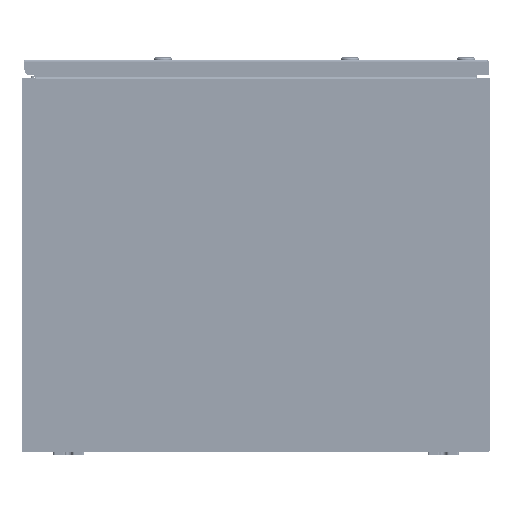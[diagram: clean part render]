
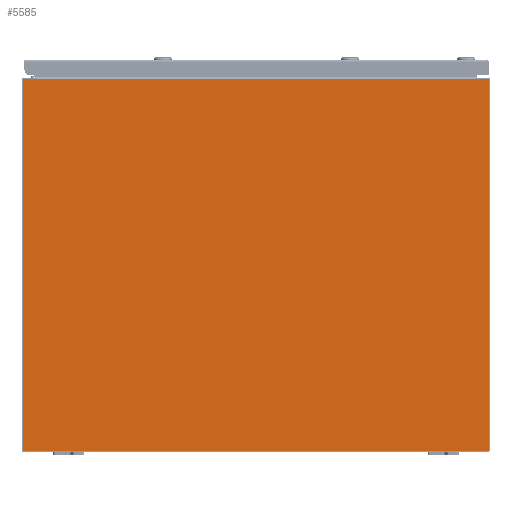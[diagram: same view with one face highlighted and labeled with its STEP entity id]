
A CAD part, front view. The second image highlights one B-rep face of the part: STEP entity #5585.
In plain terms, the highlighted planar face has unit normal (0, -1, 0).
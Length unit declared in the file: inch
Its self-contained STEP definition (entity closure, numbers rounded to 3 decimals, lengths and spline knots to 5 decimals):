
#5273=CARTESIAN_POINT('',(14.932,-36.0,23.932));
#5274=VERTEX_POINT('',#5273);
#5289=CARTESIAN_POINT('',(14.0932,-36.0,23.932));
#5290=VERTEX_POINT('',#5289);
#5297=CARTESIAN_POINT('',(14.932,-36.,23.932));
#5298=DIRECTION('',(-1.0,0.0,0.0));
#5299=VECTOR('',#5298,0.8388);
#5300=LINE('',#5297,#5299);
#5301=EDGE_CURVE('',#5274,#5290,#5300,.T.);
#5311=CARTESIAN_POINT('',(-14.932,-36.0,23.932));
#5312=VERTEX_POINT('',#5311);
#5321=CARTESIAN_POINT('',(-14.0932,-36.0,23.932));
#5322=VERTEX_POINT('',#5321);
#5323=CARTESIAN_POINT('',(-14.0932,-36.,23.932));
#5324=DIRECTION('',(-1.0,0.0,0.0));
#5325=VECTOR('',#5324,0.8388);
#5326=LINE('',#5323,#5325);
#5327=EDGE_CURVE('',#5322,#5312,#5326,.T.);
#5369=CARTESIAN_POINT('',(14.093,-36.,23.901));
#5370=VERTEX_POINT('',#5369);
#5427=CARTESIAN_POINT('',(14.0932,-36.,23.9008));
#5428=VERTEX_POINT('',#5427);
#5435=CARTESIAN_POINT('',(14.0932,-36.,23.932));
#5436=DIRECTION('',(0.0,0.0,-1.0));
#5437=VECTOR('',#5436,0.0312);
#5438=LINE('',#5435,#5437);
#5439=EDGE_CURVE('',#5290,#5428,#5438,.T.);
#5493=CARTESIAN_POINT('',(-14.093,-36.,23.901));
#5494=VERTEX_POINT('',#5493);
#5511=CARTESIAN_POINT('',(0.,-36.,12.009));
#5512=DIRECTION('',(0.0,1.0,0.0));
#5513=DIRECTION('',(1.0,0.0,0.0));
#5514=AXIS2_PLACEMENT_3D('',#5511,#5512,#5513);
#5515=PLANE('',#5514);
#5516=ORIENTED_EDGE('',*,*,#5301,.T.);
#5517=ORIENTED_EDGE('',*,*,#5439,.T.);
#5518=CARTESIAN_POINT('',(14.093,-36.,23.9008));
#5519=VERTEX_POINT('',#5518);
#5520=CARTESIAN_POINT('',(14.0932,-36.,23.9008));
#5521=DIRECTION('',(-1.0,0.0,0.0));
#5522=VECTOR('',#5521,0.0002);
#5523=LINE('',#5520,#5522);
#5524=EDGE_CURVE('',#5428,#5519,#5523,.T.);
#5525=ORIENTED_EDGE('',*,*,#5524,.T.);
#5526=CARTESIAN_POINT('',(14.093,-36.,23.9008));
#5527=DIRECTION('',(0.0,0.0,1.0));
#5528=VECTOR('',#5527,0.0002);
#5529=LINE('',#5526,#5528);
#5530=EDGE_CURVE('',#5519,#5370,#5529,.T.);
#5531=ORIENTED_EDGE('',*,*,#5530,.T.);
#5532=CARTESIAN_POINT('',(14.093,-36.,23.901));
#5533=DIRECTION('',(-1.0,0.0,0.0));
#5534=VECTOR('',#5533,28.186);
#5535=LINE('',#5532,#5534);
#5536=EDGE_CURVE('',#5370,#5494,#5535,.T.);
#5537=ORIENTED_EDGE('',*,*,#5536,.T.);
#5538=CARTESIAN_POINT('',(-14.093,-36.,23.9008));
#5539=VERTEX_POINT('',#5538);
#5540=CARTESIAN_POINT('',(-14.093,-36.,23.901));
#5541=DIRECTION('',(0.0,0.0,-1.0));
#5542=VECTOR('',#5541,0.0002);
#5543=LINE('',#5540,#5542);
#5544=EDGE_CURVE('',#5494,#5539,#5543,.T.);
#5545=ORIENTED_EDGE('',*,*,#5544,.T.);
#5546=CARTESIAN_POINT('',(-14.0932,-36.,23.9008));
#5547=VERTEX_POINT('',#5546);
#5548=CARTESIAN_POINT('',(-14.093,-36.,23.9008));
#5549=DIRECTION('',(-1.0,0.0,0.0));
#5550=VECTOR('',#5549,0.0002);
#5551=LINE('',#5548,#5550);
#5552=EDGE_CURVE('',#5539,#5547,#5551,.T.);
#5553=ORIENTED_EDGE('',*,*,#5552,.T.);
#5554=CARTESIAN_POINT('',(-14.0932,-36.,23.9008));
#5555=DIRECTION('',(0.0,0.0,1.0));
#5556=VECTOR('',#5555,0.0312);
#5557=LINE('',#5554,#5556);
#5558=EDGE_CURVE('',#5547,#5322,#5557,.T.);
#5559=ORIENTED_EDGE('',*,*,#5558,.T.);
#5560=ORIENTED_EDGE('',*,*,#5327,.T.);
#5561=CARTESIAN_POINT('',(-14.932,-36.,0.068));
#5562=VERTEX_POINT('',#5561);
#5563=CARTESIAN_POINT('',(-14.932,-36.,23.932));
#5564=DIRECTION('',(0.0,0.0,-1.0));
#5565=VECTOR('',#5564,23.864);
#5566=LINE('',#5563,#5565);
#5567=EDGE_CURVE('',#5312,#5562,#5566,.T.);
#5568=ORIENTED_EDGE('',*,*,#5567,.T.);
#5569=CARTESIAN_POINT('',(14.932,-36.,0.068));
#5570=VERTEX_POINT('',#5569);
#5571=CARTESIAN_POINT('',(-14.932,-36.,0.068));
#5572=DIRECTION('',(1.0,0.0,0.0));
#5573=VECTOR('',#5572,29.864);
#5574=LINE('',#5571,#5573);
#5575=EDGE_CURVE('',#5562,#5570,#5574,.T.);
#5576=ORIENTED_EDGE('',*,*,#5575,.T.);
#5577=CARTESIAN_POINT('',(14.932,-36.,23.932));
#5578=DIRECTION('',(0.0,0.0,-1.0));
#5579=VECTOR('',#5578,23.864);
#5580=LINE('',#5577,#5579);
#5581=EDGE_CURVE('',#5274,#5570,#5580,.T.);
#5582=ORIENTED_EDGE('',*,*,#5581,.F.);
#5583=EDGE_LOOP('',(#5516,#5517,#5525,#5531,#5537,#5545,#5553,#5559,#5560,#5568,#5576,#5582));
#5584=FACE_OUTER_BOUND('',#5583,.T.);
#5585=ADVANCED_FACE('',(#5584),#5515,.F.);
